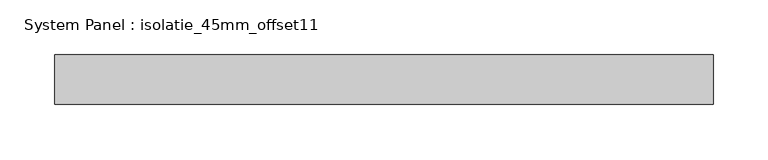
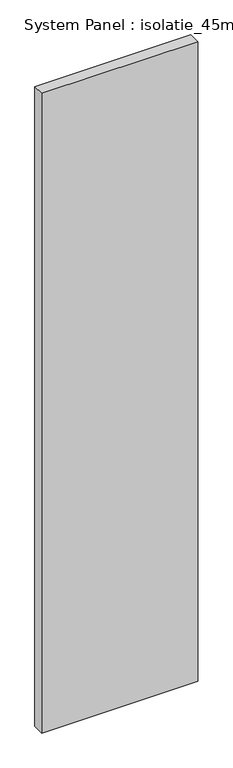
"""IFC4 building model written with IfcOpenShell, lengths in millimetres: plate geometry, System Panel : isolatie_45mm_offset11."""

from ifc_helpers import new_model, si_unit, origin, origin_with_axes, place, context, project, spatial, polyline, outline, extrude, source, transform, mapped, element, save


def system_panel_isolatie_45mm_offset11_d03675fc(model_context):
    return source(origin(), model_context, "Body", "SweptSolid", [
        extrude(outline(polyline([(299.5, -11.5), (-299.5, -11.5), (-299.5, 33.5), (299.5, 33.5), (299.5, -11.5)])), origin_with_axes(), (0.0, 0.0, 1.0), 2598.0),
    ])


if __name__ == "__main__":
    model = new_model("IFC4")
    model_context = context("Model", 3, world=origin())
    ifc_project = project(units=[si_unit("LENGTHUNIT", "METRE", prefix="MILLI")], contexts=[model_context])
    site = spatial("IfcSite", under=ifc_project)
    building = spatial("IfcBuilding", under=site)
    placement = place(None, origin())
    system_panel_isolatie_45mm_offset11_shape = system_panel_isolatie_45mm_offset11_d03675fc(model_context)
    element("IfcPlate", 1, ObjectType="System Panel : isolatie_45mm_offset11", at=placement, inside=building, context=model_context, shape_type="MappedRepresentation", body=[
        mapped(system_panel_isolatie_45mm_offset11_shape, transform((0.0, 0.0, 0.0), x_axis=(1.0, 0.0, 0.0), y_axis=(0.0, 1.0, 0.0), z_axis=(0.0, 0.0, 1.0))),
    ])
    save(model, "model.ifc")
